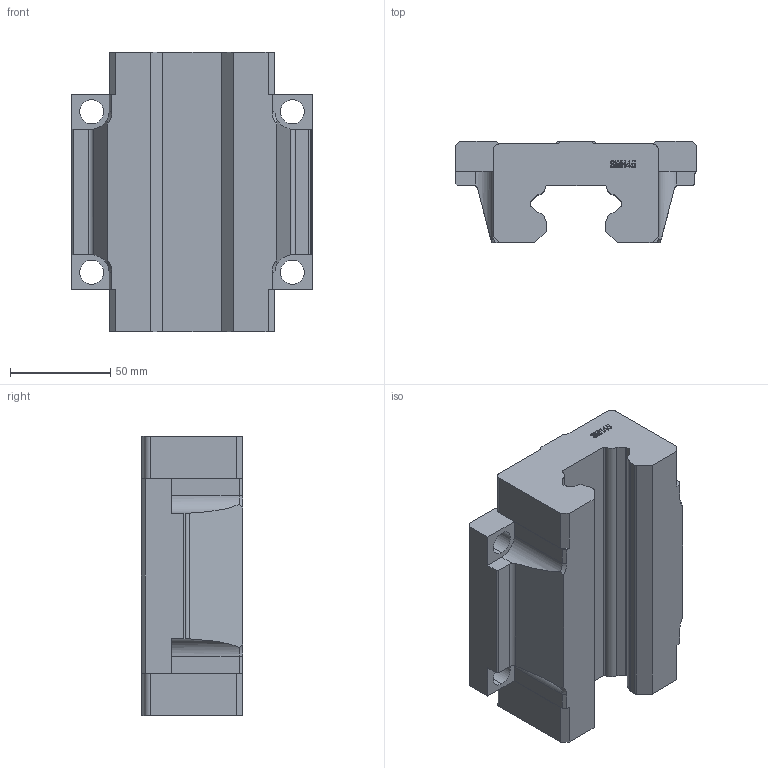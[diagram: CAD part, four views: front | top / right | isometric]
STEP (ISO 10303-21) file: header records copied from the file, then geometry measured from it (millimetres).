
FILE_DESCRIPTION (( 'STEP AP203' ), '1' );
FILE_NAME ('SMH45A.STEP', '2019-09-23T04:39:07', ( 'pgos' ), ( '' ), 'SwSTEP 2.0', 'SolidWorks 2014', '' );
FILE_SCHEMA (( 'CONFIG_CONTROL_DESIGN' ));
Length unit declared in the file: millimetre
Products named in the file (1): SMH45A
Bounding box: 120 x 50.5 x 139.4 mm (x, y, z)
Volume: 509512.8 mm3; surface area: 61303 mm2
Topology: 1 solids, 1 shells, 185 faces, 527 edges, 350 vertices
Faces by surface type: plane 132, cylinder 33, bspline 16, cone 4
Entity records: 7252 total; most frequent: CARTESIAN_POINT 2403, ORIENTED_EDGE 1054, DIRECTION 893, EDGE_CURVE 527, VECTOR 413, LINE 413, VERTEX_POINT 350, AXIS2_PLACEMENT_3D 240
